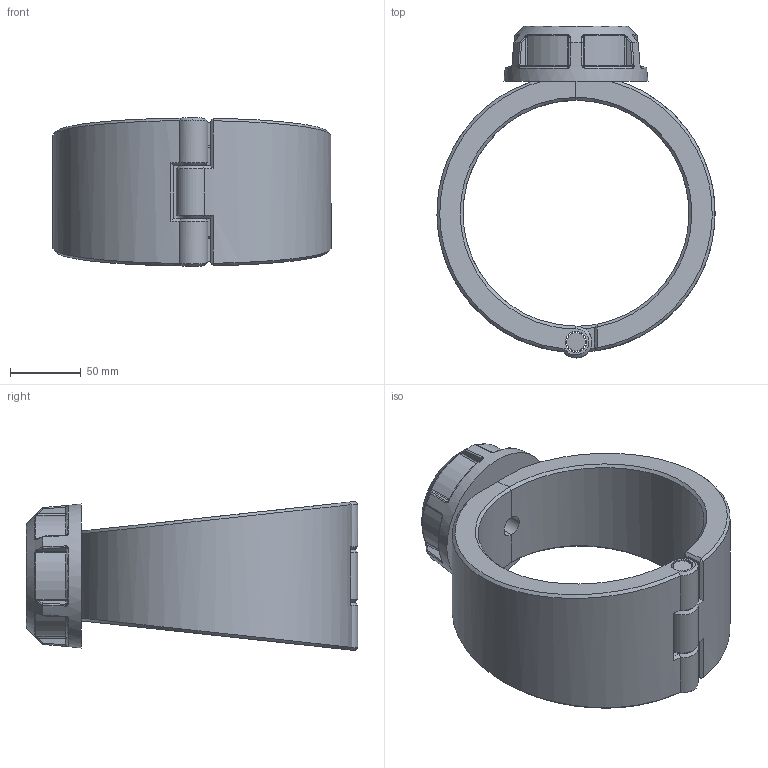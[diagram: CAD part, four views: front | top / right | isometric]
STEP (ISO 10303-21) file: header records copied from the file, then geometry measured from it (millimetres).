
FILE_DESCRIPTION(/* description */ ('Plassadle Threaded 160x1'''''),/* implementation_level */ '2;1');
FILE_NAME(/* name */ 'C:\Users\comp2\Dropbox\99-16-3568-Processing\Mechanical Fittings\16300\stp\163000160010.stp',/* time_stamp */ '2022-02-03T11:51:24+00:00',/* author */ ('comp2'),/* organization */ (''),/* preprocessor_version */ 'ST-DEVELOPER v17.2',/* originating_system */ 'Autodesk Inventor 2019',/* authorisation */ '');
FILE_SCHEMA (('AUTOMOTIVE_DESIGN { 1 0 10303 214 3 1 1 }'));
Length unit declared in the file: millimetre
Products named in the file (1): 163000160010
Bounding box: 196.98 x 235 x 105.57 mm (x, y, z)
Volume: 1071344.7 mm3; surface area: 155800.2 mm2
Topology: 4 solids, 4 shells, 203 faces, 486 edges, 293 vertices
Faces by surface type: bspline 58, plane 53, cylinder 47, torus 18, cone 15, sphere 12
Full cylindrical faces by diameter (mm): 13.04 x1, 15.04 x3, 15.146 x1, 25.747 x1, 30.291 x1, 45.437 x1
Entity records: 8244 total; most frequent: CARTESIAN_POINT 3897, ORIENTED_EDGE 972, DIRECTION 781, EDGE_CURVE 486, AXIS2_PLACEMENT_3D 330, VERTEX_POINT 293, EDGE_LOOP 213, FACE_OUTER_BOUND 203
